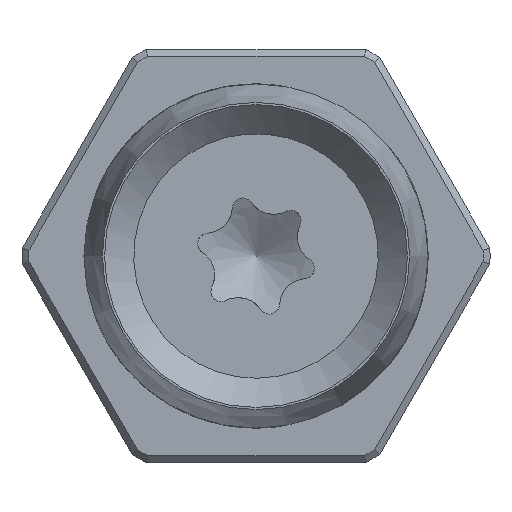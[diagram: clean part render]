
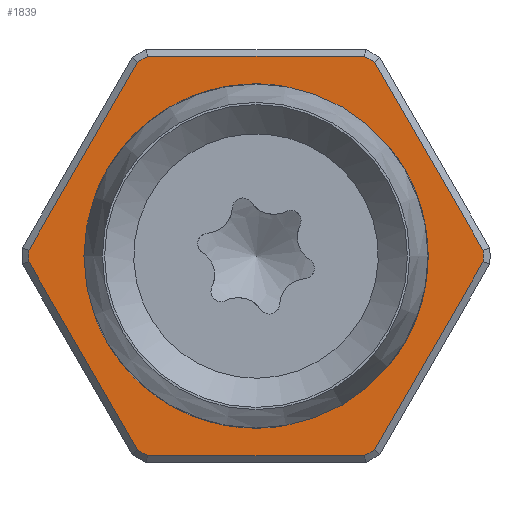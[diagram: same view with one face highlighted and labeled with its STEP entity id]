
A CAD part, front view. The second image highlights one B-rep face of the part: STEP entity #1839.
In plain terms, the highlighted planar face has unit normal (0, -1, 0).
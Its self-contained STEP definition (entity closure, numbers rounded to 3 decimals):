
#86=FACE_BOUND('',#327,.T.);
#113=PLANE('',#2025);
#216=FACE_OUTER_BOUND('',#326,.T.);
#326=EDGE_LOOP('',(#1429,#1430,#1431,#1432,#1433,#1434,#1435,#1436,#1437,
#1438,#1439,#1440));
#327=EDGE_LOOP('',(#1441));
#423=LINE('',#3284,#524);
#425=LINE('',#3302,#526);
#426=LINE('',#3314,#527);
#428=LINE('',#3332,#529);
#430=LINE('',#3350,#531);
#432=LINE('',#3367,#533);
#524=VECTOR('',#2348,10.);
#526=VECTOR('',#2358,10.);
#527=VECTOR('',#2367,10.);
#529=VECTOR('',#2377,10.);
#531=VECTOR('',#2387,10.);
#533=VECTOR('',#2397,10.);
#610=CIRCLE('',#1964,2.4);
#621=CIRCLE('',#1994,3.3);
#623=CIRCLE('',#1998,3.3);
#625=CIRCLE('',#2002,3.3);
#626=CIRCLE('',#2005,3.3);
#628=CIRCLE('',#2009,3.3);
#630=CIRCLE('',#2013,3.3);
#738=VERTEX_POINT('',#3073);
#764=VERTEX_POINT('',#3265);
#765=VERTEX_POINT('',#3270);
#767=VERTEX_POINT('',#3279);
#769=VERTEX_POINT('',#3288);
#771=VERTEX_POINT('',#3297);
#773=VERTEX_POINT('',#3306);
#774=VERTEX_POINT('',#3313);
#776=VERTEX_POINT('',#3322);
#778=VERTEX_POINT('',#3331);
#780=VERTEX_POINT('',#3340);
#782=VERTEX_POINT('',#3349);
#784=VERTEX_POINT('',#3358);
#933=EDGE_CURVE('',#738,#738,#610,.T.);
#977=EDGE_CURVE('',#764,#765,#621,.T.);
#981=EDGE_CURVE('',#767,#764,#423,.T.);
#984=EDGE_CURVE('',#769,#767,#623,.T.);
#987=EDGE_CURVE('',#771,#769,#425,.T.);
#990=EDGE_CURVE('',#773,#771,#625,.T.);
#991=EDGE_CURVE('',#774,#773,#426,.T.);
#994=EDGE_CURVE('',#776,#774,#626,.T.);
#997=EDGE_CURVE('',#778,#776,#428,.T.);
#1000=EDGE_CURVE('',#780,#778,#628,.T.);
#1003=EDGE_CURVE('',#782,#780,#430,.T.);
#1006=EDGE_CURVE('',#784,#782,#630,.T.);
#1009=EDGE_CURVE('',#765,#784,#432,.T.);
#1429=ORIENTED_EDGE('',*,*,#977,.F.);
#1430=ORIENTED_EDGE('',*,*,#981,.F.);
#1431=ORIENTED_EDGE('',*,*,#984,.F.);
#1432=ORIENTED_EDGE('',*,*,#987,.F.);
#1433=ORIENTED_EDGE('',*,*,#990,.F.);
#1434=ORIENTED_EDGE('',*,*,#991,.F.);
#1435=ORIENTED_EDGE('',*,*,#994,.F.);
#1436=ORIENTED_EDGE('',*,*,#997,.F.);
#1437=ORIENTED_EDGE('',*,*,#1000,.F.);
#1438=ORIENTED_EDGE('',*,*,#1003,.F.);
#1439=ORIENTED_EDGE('',*,*,#1006,.F.);
#1440=ORIENTED_EDGE('',*,*,#1009,.F.);
#1441=ORIENTED_EDGE('',*,*,#933,.T.);
#1839=ADVANCED_FACE('',(#216,#86),#113,.T.);
#1964=AXIS2_PLACEMENT_3D('',#3074,#2259,#2260);
#1994=AXIS2_PLACEMENT_3D('',#3271,#2343,#2344);
#1998=AXIS2_PLACEMENT_3D('',#3293,#2353,#2354);
#2002=AXIS2_PLACEMENT_3D('',#3311,#2363,#2364);
#2005=AXIS2_PLACEMENT_3D('',#3323,#2371,#2372);
#2009=AXIS2_PLACEMENT_3D('',#3341,#2381,#2382);
#2013=AXIS2_PLACEMENT_3D('',#3359,#2391,#2392);
#2025=AXIS2_PLACEMENT_3D('',#3395,#2427,#2428);
#2259=DIRECTION('center_axis',(0.,1.,0.));
#2260=DIRECTION('ref_axis',(-0.5,0.,0.866));
#2343=DIRECTION('center_axis',(0.,1.,0.));
#2344=DIRECTION('ref_axis',(-1.,0.,0.));
#2348=DIRECTION('',(-1.,0.,0.));
#2353=DIRECTION('center_axis',(0.,1.,0.));
#2354=DIRECTION('ref_axis',(1.,0.,0.));
#2358=DIRECTION('',(-0.5,0.,-0.866));
#2363=DIRECTION('center_axis',(0.,1.,0.));
#2364=DIRECTION('ref_axis',(1.,0.,0.));
#2367=DIRECTION('',(0.5,0.,-0.866));
#2371=DIRECTION('center_axis',(0.,1.,0.));
#2372=DIRECTION('ref_axis',(1.,0.,0.));
#2377=DIRECTION('',(1.,0.,0.));
#2381=DIRECTION('center_axis',(0.,1.,0.));
#2382=DIRECTION('ref_axis',(-1.,0.,0.));
#2387=DIRECTION('',(0.5,0.,0.866));
#2391=DIRECTION('center_axis',(0.,1.,0.));
#2392=DIRECTION('ref_axis',(-1.,0.,0.));
#2397=DIRECTION('',(-0.5,0.,0.866));
#2427=DIRECTION('center_axis',(0.,-1.,0.));
#2428=DIRECTION('ref_axis',(0.,0.,-1.));
#3073=CARTESIAN_POINT('',(1.2,13.95,-2.078));
#3074=CARTESIAN_POINT('Origin',(0.,13.95,0.));
#3265=CARTESIAN_POINT('',(-1.575,13.95,-2.9));
#3270=CARTESIAN_POINT('',(-1.724,13.95,-2.814));
#3271=CARTESIAN_POINT('Origin',(0.,13.95,0.));
#3279=CARTESIAN_POINT('',(1.575,13.95,-2.9));
#3284=CARTESIAN_POINT('',(-0.471,13.95,-2.9));
#3288=CARTESIAN_POINT('',(1.724,13.95,-2.814));
#3293=CARTESIAN_POINT('Origin',(0.,13.95,0.));
#3297=CARTESIAN_POINT('',(3.299,13.95,-0.086));
#3302=CARTESIAN_POINT('',(2.61,13.95,-1.279));
#3306=CARTESIAN_POINT('',(3.299,13.95,0.086));
#3311=CARTESIAN_POINT('Origin',(0.,13.95,0.));
#3313=CARTESIAN_POINT('',(1.724,13.95,2.814));
#3314=CARTESIAN_POINT('',(1.744,13.95,2.779));
#3322=CARTESIAN_POINT('',(1.575,13.95,2.9));
#3323=CARTESIAN_POINT('Origin',(0.,13.95,0.));
#3331=CARTESIAN_POINT('',(-1.575,13.95,2.9));
#3332=CARTESIAN_POINT('',(-2.204,13.95,2.9));
#3340=CARTESIAN_POINT('',(-1.724,13.95,2.814));
#3341=CARTESIAN_POINT('Origin',(0.,13.95,0.));
#3349=CARTESIAN_POINT('',(-3.299,13.95,0.086));
#3350=CARTESIAN_POINT('',(-3.279,13.95,0.121));
#3358=CARTESIAN_POINT('',(-3.299,13.95,-0.086));
#3359=CARTESIAN_POINT('Origin',(0.,13.95,0.));
#3367=CARTESIAN_POINT('',(-2.413,13.95,-1.621));
#3395=CARTESIAN_POINT('Origin',(-2.675,13.95,0.));
